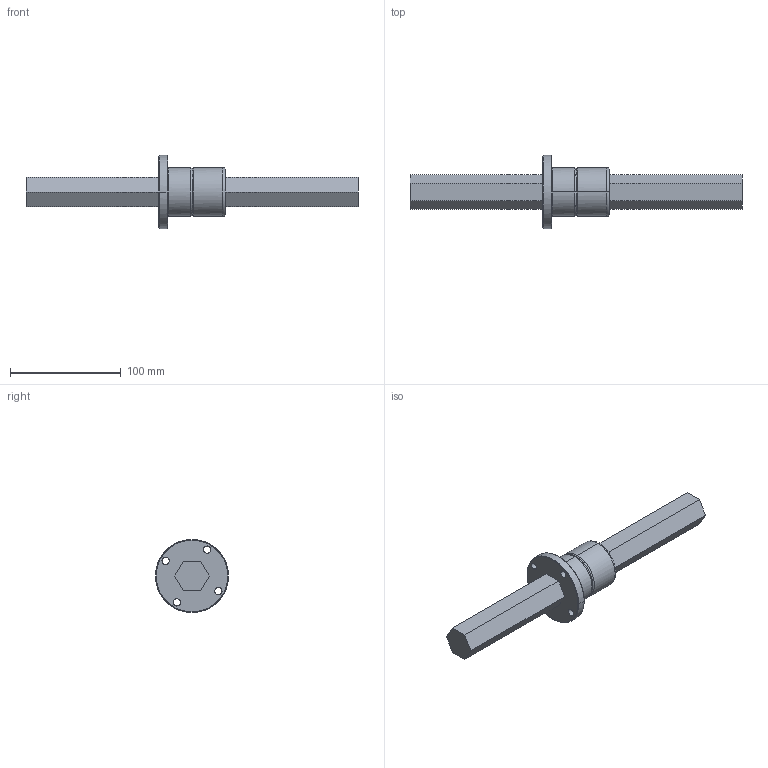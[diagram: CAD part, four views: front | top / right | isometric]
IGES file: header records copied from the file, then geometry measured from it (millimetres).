
Global section: file name: No Iges File Name specified; native system: AutoDesk Inventor R10; preprocessor: AutoDesk Inventor Iges Exporter R10; author: No Author specified; organization: No Organization specified; date: 20101224.162543; units: millimetre
Bounding box: 300 x 66 x 66 mm (x, y, z)
Surface area: 49918.4 mm2 (no closed solid volume)
Topology: 0 solids, 0 shells, 55 faces, 382 edges, 382 vertices
Faces by surface type: bspline 55
